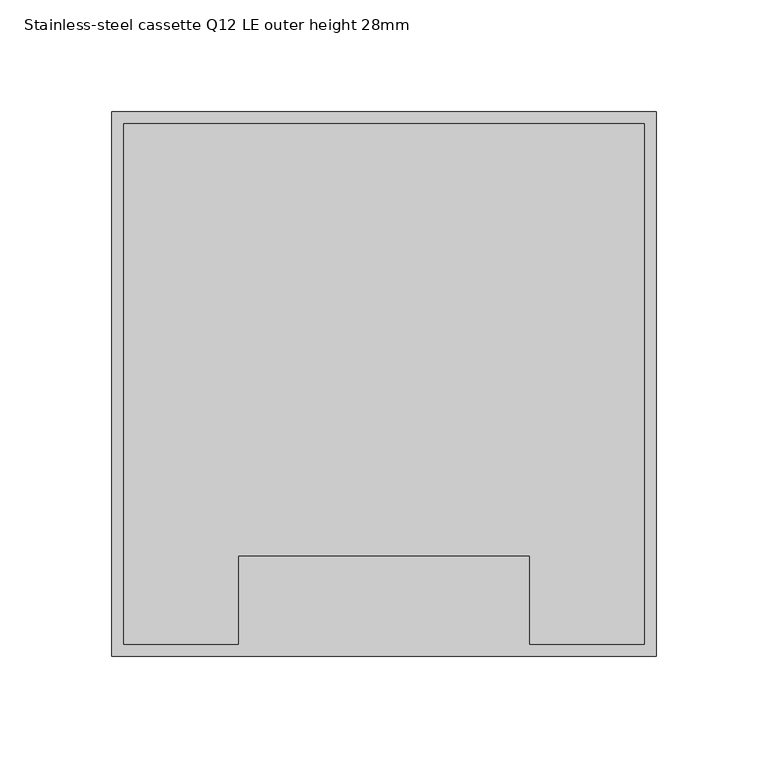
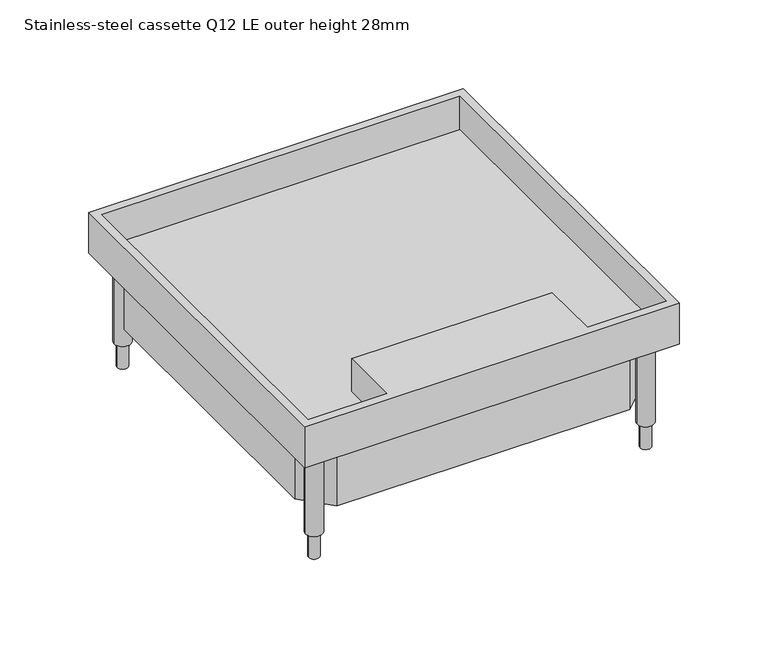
"""IFC4 building model written with IfcOpenShell, lengths in millimetres: proxy geometry, Electrical_Installation_Hager_VE-EE_EKQ-Height-adjustable-stainless-steel-cassette-with-cable-outlet-square-for-dry-cleaned-floors : Stainless-steel cassette Q12 LE outer height 28mm."""

from ifc_helpers import new_model, si_unit, point, frame, frame_2d, origin, place, context, project, spatial, polyline, circle_curve, trimmed, segment, composite_curve, outline, extrude, source, transform, mapped, element, save


def stainless_steel_cassette_q12_le_outer_height_28mm_4387def9(model_context):
    return source(origin(), model_context, "Body", "SweptSolid", [
        extrude(outline(composite_curve([segment(trimmed(circle_curve(frame_2d((-108.0, 108.0)), 3.5), [point((-111.5, 108.0))], [point((-104.5, 108.0))], False, "CARTESIAN"), True, "CONTINUOUS"), segment(trimmed(circle_curve(frame_2d((-108.0, 108.0)), 3.5), [point((-104.5, 108.0))], [point((-111.5, 108.0))], False, "CARTESIAN"), True, "CONTINUOUS")], self_intersect=False)), frame((0.0, 0.0, -100.0), z_axis=(0.0, 0.0, 1.0), x_axis=(1.0, 0.0, 0.0)), (0.0, 0.0, 1.0), 17.0011554),
        extrude(outline(composite_curve([segment(trimmed(circle_curve(frame_2d((108.0, 108.0)), 3.5), [point((104.5, 108.0))], [point((111.5, 108.0))], False, "CARTESIAN"), True, "CONTINUOUS"), segment(trimmed(circle_curve(frame_2d((108.0, 108.0)), 3.5), [point((111.5, 108.0))], [point((104.5, 108.0))], False, "CARTESIAN"), True, "CONTINUOUS")], self_intersect=False)), frame((0.0, 0.0, -100.0), z_axis=(0.0, 0.0, 1.0), x_axis=(1.0, 0.0, 0.0)), (0.0, 0.0, 1.0), 17.0011554),
        extrude(outline(composite_curve([segment(trimmed(circle_curve(frame_2d((108.0, -108.0)), 3.523354), [point((104.476646, -108.0))], [point((111.523354, -108.0))], False, "CARTESIAN"), True, "CONTINUOUS"), segment(trimmed(circle_curve(frame_2d((108.0, -108.0)), 3.523354), [point((111.523354, -108.0))], [point((104.476646, -108.0))], False, "CARTESIAN"), True, "CONTINUOUS")], self_intersect=False)), frame((0.0, 0.0, -100.0), z_axis=(0.0, 0.0, 1.0), x_axis=(1.0, 0.0, 0.0)), (0.0, 0.0, 1.0), 17.0011554),
        extrude(outline(composite_curve([segment(trimmed(circle_curve(frame_2d((-108.0, -108.0)), 3.5), [point((-111.5, -108.0))], [point((-104.5, -108.0))], False, "CARTESIAN"), True, "CONTINUOUS"), segment(trimmed(circle_curve(frame_2d((-108.0, -108.0)), 3.5), [point((-104.5, -108.0))], [point((-111.5, -108.0))], False, "CARTESIAN"), True, "CONTINUOUS")], self_intersect=False)), frame((0.0, 0.0, -100.0), z_axis=(0.0, 0.0, 1.0), x_axis=(1.0, 0.0, 0.0)), (0.0, 0.0, 1.0), 17.0011554),
        extrude(outline(polyline([(4.7, 113.0), (95.3639966, 113.0), (113.0, 96.0470649), (113.0, -95.1394213), (94.7984665, -113.0), (-95.867755, -113.0), (-113.0, -95.1801256), (-113.0, 97.543544), (-95.6272863, 113.0), (4.7, 113.0)]), holes=[polyline([(-110.0, 96.3642535), (-110.0, -94.134929), (-94.4180331, -110.0), (93.4123304, -110.0), (110.0, -94.0355815), (110.0, 94.9312235), (93.9906502, 110.0), (4.7, 110.0), (-94.3203352, 110.0), (-110.0, 96.3642535)])]), frame((0.0, 0.0, -67.0), z_axis=(0.0, 0.0, 1.0), x_axis=(1.0, 0.0, 0.0)), (0.0, 0.0, 1.0), 41.0),
        extrude(outline(polyline([(116.5, 116.5), (116.5, -116.5), (-116.5, -116.5), (-116.5, 116.5), (116.5, 116.5)])), frame((0.0, 0.0, -26.0), z_axis=(0.0, 0.0, 1.0), x_axis=(1.0, 0.0, 0.0)), (0.0, 0.0, 1.0), 5.0),
        extrude(outline(composite_curve([segment(trimmed(circle_curve(frame_2d((-108.0, 108.0)), 5.5), [point((-113.5, 108.0))], [point((-102.5, 108.0))], False, "CARTESIAN"), True, "CONTINUOUS"), segment(trimmed(circle_curve(frame_2d((-108.0, 108.0)), 5.5), [point((-102.5, 108.0))], [point((-113.5, 108.0))], False, "CARTESIAN"), True, "CONTINUOUS")], self_intersect=False)), frame((0.0, 0.0, -82.9988446), z_axis=(0.0, 0.0, 1.0), x_axis=(1.0, 0.0, 0.0)), (0.0, 0.0, 1.0), 56.9988446),
        extrude(outline(composite_curve([segment(trimmed(circle_curve(frame_2d((108.0, 108.0)), 5.5), [point((102.5, 108.0))], [point((113.5, 108.0))], False, "CARTESIAN"), True, "CONTINUOUS"), segment(trimmed(circle_curve(frame_2d((108.0, 108.0)), 5.5), [point((113.5, 108.0))], [point((102.5, 108.0))], False, "CARTESIAN"), True, "CONTINUOUS")], self_intersect=False)), frame((0.0, 0.0, -82.9988446), z_axis=(0.0, 0.0, 1.0), x_axis=(1.0, 0.0, 0.0)), (0.0, 0.0, 1.0), 56.9988446),
        extrude(outline(composite_curve([segment(trimmed(circle_curve(frame_2d((-108.0, -108.0)), 5.5), [point((-113.5, -108.0))], [point((-102.5, -108.0))], False, "CARTESIAN"), True, "CONTINUOUS"), segment(trimmed(circle_curve(frame_2d((-108.0, -108.0)), 5.5), [point((-102.5, -108.0))], [point((-113.5, -108.0))], False, "CARTESIAN"), True, "CONTINUOUS")], self_intersect=False)), frame((0.0, 0.0, -82.9988446), z_axis=(0.0, 0.0, 1.0), x_axis=(1.0, 0.0, 0.0)), (0.0, 0.0, 1.0), 56.9988446),
        extrude(outline(composite_curve([segment(trimmed(circle_curve(frame_2d((108.0, -108.0)), 5.5), [point((102.5, -108.0))], [point((113.5, -108.0))], False, "CARTESIAN"), True, "CONTINUOUS"), segment(trimmed(circle_curve(frame_2d((108.0, -108.0)), 5.5), [point((113.5, -108.0))], [point((102.5, -108.0))], False, "CARTESIAN"), True, "CONTINUOUS")], self_intersect=False)), frame((0.0, 0.0, -82.9988446), z_axis=(0.0, 0.0, 1.0), x_axis=(1.0, 0.0, 0.0)), (0.0, 0.0, 1.0), 56.9988446),
        extrude(outline(polyline([(122.0, 122.0), (122.0, -122.0), (-122.0, -122.0), (-122.0, 122.0), (122.0, 122.0)]), holes=[polyline([(116.5, 116.5), (-116.5, 116.5), (-116.5, -116.5), (-65.3360621, -116.5), (-65.3360621, -76.863938), (65.3360621, -76.863938), (65.3360621, -116.5), (116.5, -116.5), (116.5, 116.5)])]), frame((0.0, 0.0, -26.0), z_axis=(0.0, 0.0, 1.0), x_axis=(1.0, 0.0, 0.0)), (0.0, 0.0, 1.0), 28.0),
    ])


if __name__ == "__main__":
    model = new_model("IFC4")
    model_context = context("Model", 3, world=origin())
    ifc_project = project(units=[si_unit("LENGTHUNIT", "METRE", prefix="MILLI")], contexts=[model_context])
    site = spatial("IfcSite", under=ifc_project)
    building = spatial("IfcBuilding", under=site)
    placement = place(None, origin())
    stainless_steel_cassette_q12_le_outer_height_28mm_shape = stainless_steel_cassette_q12_le_outer_height_28mm_4387def9(model_context)
    element("IfcBuildingElementProxy", 1, Name="Electrical_Installation_Hager_VE-EE_EKQ-Height-adjustable-stainless-steel-cassette-with-cable-outlet-square-for-dry-cleaned-floors : Stainless-steel cassette Q12 LE outer height 28mm", ObjectType="Electrical_Installation_Hager_VE-EE_EKQ-Height-adjustable-stainless-steel-cassette-with-cable-outlet-square-for-dry-cleaned-floors : Stainless-steel cassette Q12 LE outer height 28mm", at=placement, inside=building, context=model_context, shape_type="MappedRepresentation", body=[
        mapped(stainless_steel_cassette_q12_le_outer_height_28mm_shape, transform((0.0, 0.0, 0.0), x_axis=(1.0, 0.0, 0.0), y_axis=(0.0, 1.0, 0.0), z_axis=(0.0, 0.0, 1.0))),
    ])
    save(model, "model.ifc")
